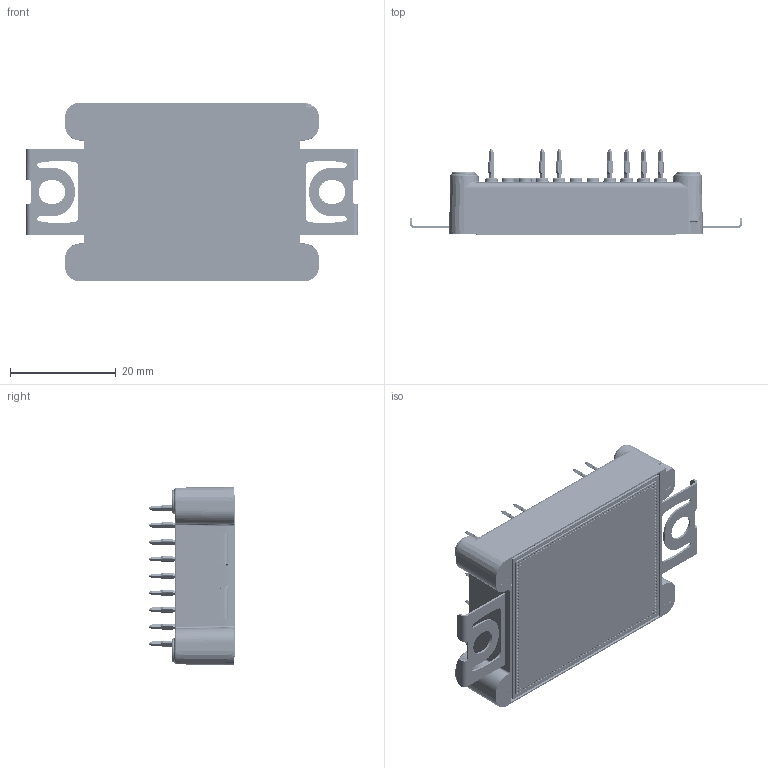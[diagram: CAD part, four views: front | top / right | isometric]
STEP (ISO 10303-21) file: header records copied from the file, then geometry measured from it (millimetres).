
FILE_DESCRIPTION (( 'STEP AP214' ), '1' );
FILE_NAME ('CBB017M12FM4 (2026-06-06).STEP', '2026-06-06T05:02:26', ( '' ), ( '' ), 'SwSTEP 2.0', 'SolidWorks 2025', '' );
FILE_SCHEMA (( 'AUTOMOTIVE_DESIGN' ));
Length unit declared in the file: millimetre
Products named in the file (1): CBB017M12FM4 (2026-06-06)
Bounding box: 62.8 x 16.4 x 33.8 mm (x, y, z)
Volume: 13497 mm3; surface area: 11184.3 mm2
Topology: 23 solids, 23 shells, 3719 faces, 9057 edges, 5655 vertices
Faces by surface type: cylinder 1384, plane 1042, bspline 667, cone 626
Entity records: 140505 total; most frequent: CARTESIAN_POINT 60068, ORIENTED_EDGE 18106, DIRECTION 14579, EDGE_CURVE 9053, VERTEX_POINT 5655, AXIS2_PLACEMENT_3D 5517, EDGE_LOOP 4152, FACE_OUTER_BOUND 3719
